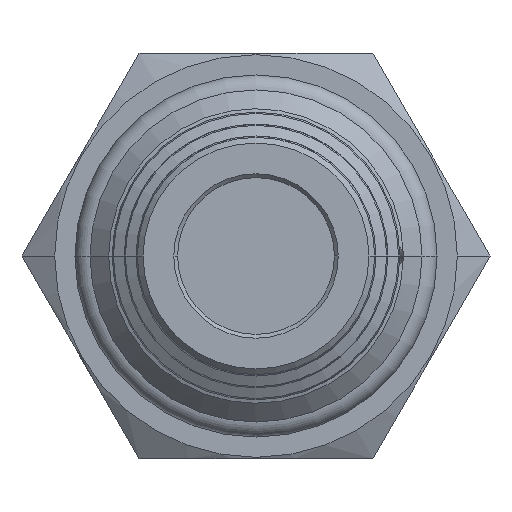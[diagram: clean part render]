
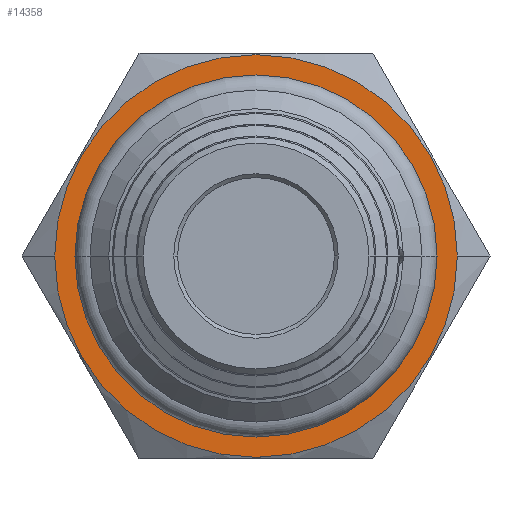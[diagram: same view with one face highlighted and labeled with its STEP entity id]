
A CAD part, front view. The second image highlights one B-rep face of the part: STEP entity #14358.
In plain terms, the highlighted planar face has unit normal (0, -1, 0).
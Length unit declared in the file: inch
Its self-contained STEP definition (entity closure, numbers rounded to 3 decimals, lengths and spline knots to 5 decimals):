
#1009=CARTESIAN_POINT('',(0.,0.,0.));
#1010=DIRECTION('',(0.,-1.,0.));
#1011=DIRECTION('',(1.,0.,0.));
#1012=AXIS2_PLACEMENT_3D('',#1009,#1010,#1011);
#1017=CARTESIAN_POINT('',(0.,0.,0.));
#1018=DIRECTION('',(0.,1.,0.));
#1019=DIRECTION('',(1.,0.,0.));
#1020=AXIS2_PLACEMENT_3D('',#1017,#1018,#1019);
#1025=CARTESIAN_POINT('',(0.,0.,0.));
#1026=DIRECTION('',(0.,-1.,0.));
#1027=DIRECTION('',(1.,0.,0.));
#1028=AXIS2_PLACEMENT_3D('',#1025,#1026,#1027);
#1033=CARTESIAN_POINT('',(0.,0.,0.));
#1034=DIRECTION('',(0.,-1.,0.));
#1035=DIRECTION('',(-1.,0.,0.));
#1036=AXIS2_PLACEMENT_3D('',#1033,#1034,#1035);
#13608=CARTESIAN_POINT('',(0.5275,0.,0.));
#13610=VERTEX_POINT('',#13608);
#13636=CARTESIAN_POINT('',(-0.5275,0.,0.));
#13638=VERTEX_POINT('',#13636);
#14039=CARTESIAN_POINT('',(0.43733,0.,0.));
#14040=CARTESIAN_POINT('',(-0.43733,0.,0.));
#14041=VERTEX_POINT('',#14039);
#14042=VERTEX_POINT('',#14040);
#14343=CARTESIAN_POINT('',(0.,0.,0.));
#14344=DIRECTION('',(0.,1.,0.));
#14345=DIRECTION('',(1.,0.,0.));
#14346=AXIS2_PLACEMENT_3D('',#14343,#14344,#14345);
#14347=PLANE('',#14346);
#14348=ORIENTED_EDGE('',*,*,#14336,.F.);
#14349=ORIENTED_EDGE('',*,*,#14325,.T.);
#14350=EDGE_LOOP('',(#14348,#14349));
#14351=FACE_OUTER_BOUND('',#14350,.F.);
#14353=ORIENTED_EDGE('',*,*,#14352,.T.);
#14355=ORIENTED_EDGE('',*,*,#14354,.T.);
#14356=EDGE_LOOP('',(#14353,#14355));
#14357=FACE_BOUND('',#14356,.F.);
#1013=CIRCLE('',#1012,0.5275);
#1021=CIRCLE('',#1020,0.5275);
#1029=CIRCLE('',#1028,0.43733);
#1037=CIRCLE('',#1036,0.43733);
#14325=EDGE_CURVE('',#13610,#13638,#1021,.T.);
#14336=EDGE_CURVE('',#13610,#13638,#1013,.T.);
#14352=EDGE_CURVE('',#14041,#14042,#1029,.T.);
#14354=EDGE_CURVE('',#14042,#14041,#1037,.T.);
#14358=ADVANCED_FACE('',(#14351,#14357),#14347,.F.);
